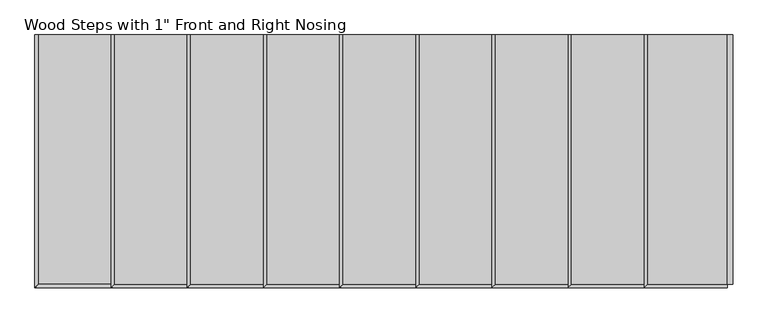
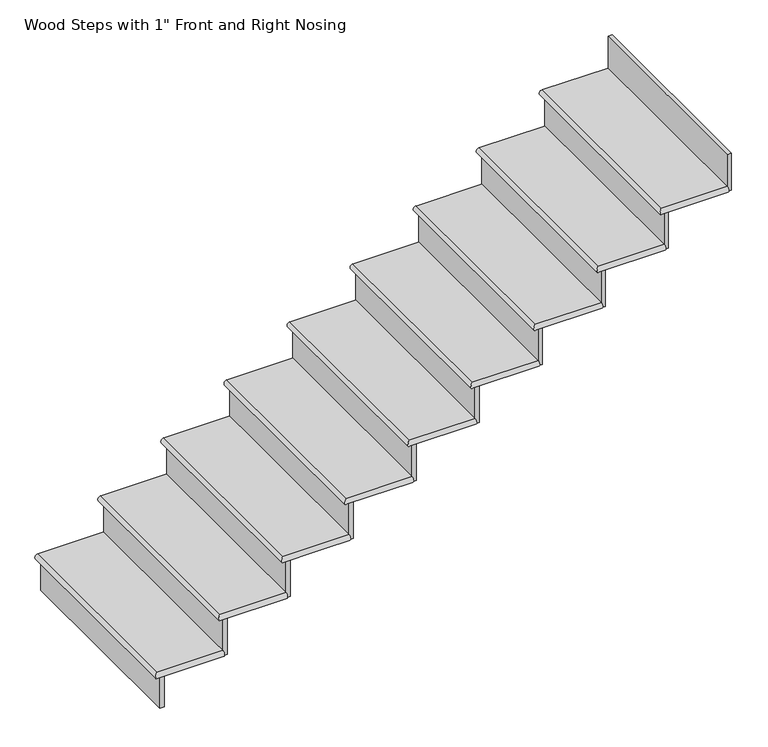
"""IFC4 building model written with IfcOpenShell, lengths in millimetres: stair flight geometry."""

from ifc_helpers import new_model, si_unit, frame, origin, place, context, project, spatial, circle_curve, ellipse_curve, faceted_brep, source, transform, mapped, element, save
from ifc_brep_helpers import plane_surface, cylinder_surface, advanced_brep


def stair_flight_a5641ca7(model_context):
    return source(origin(), model_context, "Body", "SolidModel", [
        advanced_brep(
        [(-8517.4912574, -1022.5702303, 148.7714286), (-8517.4912574, -1022.5702303, 174.1714286), (-8809.5912574, -1022.5702303, 174.1714286), (-8809.5912574, -1022.5702303, 148.7714286), (-8809.5912574, -108.1702303, 174.1714286), (-8809.5912574, -108.1702303, 148.7714286), (-8517.4912574, -108.1702303, 174.1714286), (-8517.4912574, -108.1702303, 148.7714286)],
        [
            (0, 1, circle_curve(frame((-8517.4912574, -1022.5702303, 161.4714286), z_axis=(-1.0, 0.0, 0.0), x_axis=(0.0, 1.0, 0.0)), 12.7)),
            (1, 2),
            (2, 3, ellipse_curve(frame((-8809.5912574, -1022.5702303, 161.4714286), z_axis=(0.707106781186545, -0.7071067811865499, 0.0), x_axis=(0.70710678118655, 0.7071067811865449, 0.0)), 17.9605122, 12.7)),
            (3, 0),
            (2, 4),
            (4, 5, circle_curve(frame((-8809.5912574, -108.1702303, 161.4714286), z_axis=(0.0, -1.0, 0.0), x_axis=(1.0, 0.0, 0.0)), 12.7)),
            (5, 3),
            (6, 4),
            (1, 6),
            (5, 7),
            (7, 0),
            (6, 7),
        ],
        [
            cylinder_surface(frame((-8517.4912574, -1022.5702303, 161.4714286), z_axis=(1.0, 0.0, 0.0), x_axis=(0.0, 1.0, 0.0)), 12.7),
            cylinder_surface(frame((-8809.5912574, -1022.5702303, 161.4714286), z_axis=(0.0, -1.0, 0.0), x_axis=(1.0, 0.0, 0.0)), 12.7),
            plane_surface(frame((-8822.2912574, -108.1702303, 174.1714286), z_axis=(0.0, 0.0, 1.0), x_axis=(-1.0, 0.0, 0.0))),
            plane_surface(frame((-8822.2912574, -108.1702303, 148.7714286), z_axis=(0.0, 0.0, -1.0), x_axis=(1.0, 0.0, 0.0))),
            plane_surface(frame((-8517.4912574, -108.1702303, 174.1714286), z_axis=(0.0, 1.0, 0.0), x_axis=(0.0, 0.0, -1.0))),
            plane_surface(frame((-8517.4912574, -1022.5702303, 174.1714286), z_axis=(1.0, 0.0, 0.0), x_axis=(0.0, 0.0, -1.0))),
        ],
        [
            (0, [[1, 2, 3, 4]]),
            (1, [[-3, 5, 6, 7]]),
            (2, [[8, -5, -2, 9]]),
            (3, [[10, 11, -4, -7]]),
            (4, [[-8, 12, -10, -6]]),
            (5, [[-9, -1, -11, -12]]),
        ],
    ),
        faceted_brep([(-8796.8912574, -1022.5702303, 148.7714286), (-8796.8912574, -1022.5702303, 0.0), (-8777.8412574, -1022.5702303, 0.0), (-8777.8412574, -1022.5702303, 148.7714286), (-8796.8912574, -108.1702303, 148.7714286), (-8777.8412574, -108.1702303, 148.7714286), (-8777.8412574, -108.1702303, 0.0), (-8796.8912574, -108.1702303, 0.0)], [[[0, 1, 2, 3]], [[4, 5, 6, 7]], [[1, 0, 4, 7]], [[2, 1, 7, 6]], [[3, 2, 6, 5]], [[0, 3, 5, 4]]]),
        faceted_brep([(-8517.4912574, -1022.5702303, 322.9428571), (-8517.4912574, -1022.5702303, 148.7714286), (-8498.4412574, -1022.5702303, 148.7714286), (-8498.4412574, -1022.5702303, 322.9428571), (-8517.4912574, -108.1702303, 322.9428571), (-8498.4412574, -108.1702303, 322.9428571), (-8498.4412574, -108.1702303, 148.7714286), (-8517.4912574, -108.1702303, 148.7714286)], [[[0, 1, 2, 3]], [[4, 5, 6, 7]], [[1, 0, 4, 7]], [[2, 1, 7, 6]], [[3, 2, 6, 5]], [[0, 3, 5, 4]]]),
        advanced_brep(
        [(-8238.0912574, -108.1702303, 348.3428571), (-8530.1912574, -108.1702303, 348.3428571), (-8530.1912574, -1022.5702303, 348.3428571), (-8238.0912574, -1022.5702303, 348.3428571), (-8530.1912574, -108.1702303, 322.9428571), (-8238.0912574, -108.1702303, 322.9428571), (-8238.0912574, -1022.5702303, 322.9428571), (-8530.1912574, -1022.5702303, 322.9428571)],
        [
            (0, 1),
            (1, 2),
            (2, 3),
            (3, 0),
            (4, 5),
            (5, 6),
            (6, 7),
            (7, 4),
            (0, 5),
            (4, 1, circle_curve(frame((-8530.1912574, -108.1702303, 335.6428571), z_axis=(0.0, 1.0, 0.0), x_axis=(1.0, 0.0, 0.0)), 12.7)),
            (3, 6, circle_curve(frame((-8238.0912574, -1022.5702303, 335.6428571), z_axis=(1.0, 0.0, 0.0), x_axis=(0.0, 1.0, 0.0)), 12.7)),
            (2, 7, ellipse_curve(frame((-8530.1912574, -1022.5702303, 335.6428571), z_axis=(0.7071067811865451, -0.7071067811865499, 0.0), x_axis=(0.7071067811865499, 0.707106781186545, 0.0)), 17.9605122, 12.7)),
        ],
        [
            plane_surface(frame((-8822.2912574, -108.1702303, 348.3428571), z_axis=(0.0, 0.0, 1.0), x_axis=(-1.0, 0.0, 0.0))),
            plane_surface(frame((-8822.2912574, -108.1702303, 322.9428571), z_axis=(0.0, 0.0, -1.0), x_axis=(1.0, 0.0, 0.0))),
            plane_surface(frame((-8238.0912574, -108.1702303, 348.3428571), z_axis=(0.0, 1.0, 0.0), x_axis=(0.0, 0.0, -1.0))),
            plane_surface(frame((-8238.0912574, -1022.5702303, 348.3428571), z_axis=(1.0, 0.0, 0.0), x_axis=(0.0, 0.0, -1.0))),
            cylinder_surface(frame((-8238.0912574, -1022.5702303, 335.6428571), z_axis=(1.0, 0.0, 0.0), x_axis=(0.0, 1.0, 0.0)), 12.7),
            cylinder_surface(frame((-8530.1912574, -1022.5702303, 335.6428571), z_axis=(0.0, -1.0, 0.0), x_axis=(1.0, 0.0, 0.0)), 12.7),
        ],
        [
            (0, [[1, 2, 3, 4]]),
            (1, [[5, 6, 7, 8]]),
            (2, [[-1, 9, -5, 10]]),
            (3, [[-4, 11, -6, -9]]),
            (4, [[-11, -3, 12, -7]]),
            (5, [[-12, -2, -10, -8]]),
        ],
    ),
        faceted_brep([(-8238.0912574, -1022.5702303, 497.1142857), (-8238.0912574, -1022.5702303, 322.9428571), (-8219.0412574, -1022.5702303, 322.9428571), (-8219.0412574, -1022.5702303, 497.1142857), (-8238.0912574, -108.1702303, 497.1142857), (-8219.0412574, -108.1702303, 497.1142857), (-8219.0412574, -108.1702303, 322.9428571), (-8238.0912574, -108.1702303, 322.9428571)], [[[0, 1, 2, 3]], [[4, 5, 6, 7]], [[1, 0, 4, 7]], [[2, 1, 7, 6]], [[3, 2, 6, 5]], [[0, 3, 5, 4]]]),
        advanced_brep(
        [(-7958.6912574, -108.1702303, 522.5142857), (-8250.7912574, -108.1702303, 522.5142857), (-8250.7912574, -1022.5702303, 522.5142857), (-7958.6912574, -1022.5702303, 522.5142857), (-8250.7912574, -108.1702303, 497.1142857), (-7958.6912574, -108.1702303, 497.1142857), (-7958.6912574, -1022.5702303, 497.1142857), (-8250.7912574, -1022.5702303, 497.1142857)],
        [
            (0, 1),
            (1, 2),
            (2, 3),
            (3, 0),
            (4, 5),
            (5, 6),
            (6, 7),
            (7, 4),
            (0, 5),
            (4, 1, circle_curve(frame((-8250.7912574, -108.1702303, 509.8142857), z_axis=(0.0, 1.0, 0.0), x_axis=(1.0, 0.0, 0.0)), 12.7)),
            (3, 6, circle_curve(frame((-7958.6912574, -1022.5702303, 509.8142857), z_axis=(1.0, 0.0, 0.0), x_axis=(0.0, 1.0, 0.0)), 12.7)),
            (2, 7, ellipse_curve(frame((-8250.7912574, -1022.5702303, 509.8142857), z_axis=(0.7071067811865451, -0.7071067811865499, 0.0), x_axis=(0.7071067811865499, 0.707106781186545, 0.0)), 17.9605122, 12.7)),
        ],
        [
            plane_surface(frame((-8542.8912574, -108.1702303, 522.5142857), z_axis=(0.0, 0.0, 1.0), x_axis=(-1.0, 0.0, 0.0))),
            plane_surface(frame((-8542.8912574, -108.1702303, 497.1142857), z_axis=(0.0, 0.0, -1.0), x_axis=(1.0, 0.0, 0.0))),
            plane_surface(frame((-7958.6912574, -108.1702303, 522.5142857), z_axis=(0.0, 1.0, 0.0), x_axis=(0.0, 0.0, -1.0))),
            plane_surface(frame((-7958.6912574, -1022.5702303, 522.5142857), z_axis=(1.0, 0.0, 0.0), x_axis=(0.0, 0.0, -1.0))),
            cylinder_surface(frame((-7958.6912574, -1022.5702303, 509.8142857), z_axis=(1.0, 0.0, 0.0), x_axis=(0.0, 1.0, 0.0)), 12.7),
            cylinder_surface(frame((-8250.7912574, -1022.5702303, 509.8142857), z_axis=(0.0, -1.0, 0.0), x_axis=(1.0, 0.0, 0.0)), 12.7),
        ],
        [
            (0, [[1, 2, 3, 4]]),
            (1, [[5, 6, 7, 8]]),
            (2, [[-1, 9, -5, 10]]),
            (3, [[-4, 11, -6, -9]]),
            (4, [[-11, -3, 12, -7]]),
            (5, [[-12, -2, -10, -8]]),
        ],
    ),
        faceted_brep([(-7958.6912574, -1022.5702303, 671.2857143), (-7958.6912574, -1022.5702303, 497.1142857), (-7939.6412574, -1022.5702303, 497.1142857), (-7939.6412574, -1022.5702303, 671.2857143), (-7958.6912574, -108.1702303, 671.2857143), (-7939.6412574, -108.1702303, 671.2857143), (-7939.6412574, -108.1702303, 497.1142857), (-7958.6912574, -108.1702303, 497.1142857)], [[[0, 1, 2, 3]], [[4, 5, 6, 7]], [[1, 0, 4, 7]], [[2, 1, 7, 6]], [[3, 2, 6, 5]], [[0, 3, 5, 4]]]),
        advanced_brep(
        [(-7679.2912574, -108.1702303, 696.6857143), (-7971.3912574, -108.1702303, 696.6857143), (-7971.3912574, -1022.5702303, 696.6857143), (-7679.2912574, -1022.5702303, 696.6857143), (-7971.3912574, -108.1702303, 671.2857143), (-7679.2912574, -108.1702303, 671.2857143), (-7679.2912574, -1022.5702303, 671.2857143), (-7971.3912574, -1022.5702303, 671.2857143)],
        [
            (0, 1),
            (1, 2),
            (2, 3),
            (3, 0),
            (4, 5),
            (5, 6),
            (6, 7),
            (7, 4),
            (0, 5),
            (4, 1, circle_curve(frame((-7971.3912574, -108.1702303, 683.9857143), z_axis=(0.0, 1.0, 0.0), x_axis=(1.0, 0.0, 0.0)), 12.7)),
            (3, 6, circle_curve(frame((-7679.2912574, -1022.5702303, 683.9857143), z_axis=(1.0, 0.0, 0.0), x_axis=(0.0, 1.0, 0.0)), 12.7)),
            (2, 7, ellipse_curve(frame((-7971.3912574, -1022.5702303, 683.9857143), z_axis=(0.7071067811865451, -0.7071067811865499, 0.0), x_axis=(0.7071067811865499, 0.707106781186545, 0.0)), 17.9605122, 12.7)),
        ],
        [
            plane_surface(frame((-8263.4912574, -108.1702303, 696.6857143), z_axis=(0.0, 0.0, 1.0), x_axis=(-1.0, 0.0, 0.0))),
            plane_surface(frame((-8263.4912574, -108.1702303, 671.2857143), z_axis=(0.0, 0.0, -1.0), x_axis=(1.0, 0.0, 0.0))),
            plane_surface(frame((-7679.2912574, -108.1702303, 696.6857143), z_axis=(0.0, 1.0, 0.0), x_axis=(0.0, 0.0, -1.0))),
            plane_surface(frame((-7679.2912574, -1022.5702303, 696.6857143), z_axis=(1.0, 0.0, 0.0), x_axis=(0.0, 0.0, -1.0))),
            cylinder_surface(frame((-7679.2912574, -1022.5702303, 683.9857143), z_axis=(1.0, 0.0, 0.0), x_axis=(0.0, 1.0, 0.0)), 12.7),
            cylinder_surface(frame((-7971.3912574, -1022.5702303, 683.9857143), z_axis=(0.0, -1.0, 0.0), x_axis=(1.0, 0.0, 0.0)), 12.7),
        ],
        [
            (0, [[1, 2, 3, 4]]),
            (1, [[5, 6, 7, 8]]),
            (2, [[-1, 9, -5, 10]]),
            (3, [[-4, 11, -6, -9]]),
            (4, [[-11, -3, 12, -7]]),
            (5, [[-12, -2, -10, -8]]),
        ],
    ),
        faceted_brep([(-7679.2912574, -1022.5702303, 845.4571429), (-7679.2912574, -1022.5702303, 671.2857143), (-7660.2412574, -1022.5702303, 671.2857143), (-7660.2412574, -1022.5702303, 845.4571429), (-7679.2912574, -108.1702303, 845.4571429), (-7660.2412574, -108.1702303, 845.4571429), (-7660.2412574, -108.1702303, 671.2857143), (-7679.2912574, -108.1702303, 671.2857143)], [[[0, 1, 2, 3]], [[4, 5, 6, 7]], [[1, 0, 4, 7]], [[2, 1, 7, 6]], [[3, 2, 6, 5]], [[0, 3, 5, 4]]]),
        advanced_brep(
        [(-7399.8912574, -108.1702303, 870.8571429), (-7691.9912574, -108.1702303, 870.8571429), (-7691.9912574, -1022.5702303, 870.8571429), (-7399.8912574, -1022.5702303, 870.8571429), (-7691.9912574, -108.1702303, 845.4571429), (-7399.8912574, -108.1702303, 845.4571429), (-7399.8912574, -1022.5702303, 845.4571429), (-7691.9912574, -1022.5702303, 845.4571429)],
        [
            (0, 1),
            (1, 2),
            (2, 3),
            (3, 0),
            (4, 5),
            (5, 6),
            (6, 7),
            (7, 4),
            (0, 5),
            (4, 1, circle_curve(frame((-7691.9912574, -108.1702303, 858.1571429), z_axis=(0.0, 1.0, 0.0), x_axis=(1.0, 0.0, 0.0)), 12.7)),
            (3, 6, circle_curve(frame((-7399.8912574, -1022.5702303, 858.1571429), z_axis=(1.0, 0.0, 0.0), x_axis=(0.0, 1.0, 0.0)), 12.7)),
            (2, 7, ellipse_curve(frame((-7691.9912574, -1022.5702303, 858.1571429), z_axis=(0.7071067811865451, -0.7071067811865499, 0.0), x_axis=(0.7071067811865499, 0.707106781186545, 0.0)), 17.9605122, 12.7)),
        ],
        [
            plane_surface(frame((-7984.0912574, -108.1702303, 870.8571429), z_axis=(0.0, 0.0, 1.0), x_axis=(-1.0, 0.0, 0.0))),
            plane_surface(frame((-7984.0912574, -108.1702303, 845.4571429), z_axis=(0.0, 0.0, -1.0), x_axis=(1.0, 0.0, 0.0))),
            plane_surface(frame((-7399.8912574, -108.1702303, 870.8571429), z_axis=(0.0, 1.0, 0.0), x_axis=(0.0, 0.0, -1.0))),
            plane_surface(frame((-7399.8912574, -1022.5702303, 870.8571429), z_axis=(1.0, 0.0, 0.0), x_axis=(0.0, 0.0, -1.0))),
            cylinder_surface(frame((-7399.8912574, -1022.5702303, 858.1571429), z_axis=(1.0, 0.0, 0.0), x_axis=(0.0, 1.0, 0.0)), 12.7),
            cylinder_surface(frame((-7691.9912574, -1022.5702303, 858.1571429), z_axis=(0.0, -1.0, 0.0), x_axis=(1.0, 0.0, 0.0)), 12.7),
        ],
        [
            (0, [[1, 2, 3, 4]]),
            (1, [[5, 6, 7, 8]]),
            (2, [[-1, 9, -5, 10]]),
            (3, [[-4, 11, -6, -9]]),
            (4, [[-11, -3, 12, -7]]),
            (5, [[-12, -2, -10, -8]]),
        ],
    ),
        faceted_brep([(-7399.8912574, -1022.5702303, 1019.6285714), (-7399.8912574, -1022.5702303, 845.4571429), (-7380.8412574, -1022.5702303, 845.4571429), (-7380.8412574, -1022.5702303, 1019.6285714), (-7399.8912574, -108.1702303, 1019.6285714), (-7380.8412574, -108.1702303, 1019.6285714), (-7380.8412574, -108.1702303, 845.4571429), (-7399.8912574, -108.1702303, 845.4571429)], [[[0, 1, 2, 3]], [[4, 5, 6, 7]], [[1, 0, 4, 7]], [[2, 1, 7, 6]], [[3, 2, 6, 5]], [[0, 3, 5, 4]]]),
        advanced_brep(
        [(-7120.4912574, -108.1702303, 1045.0285714), (-7412.5912574, -108.1702303, 1045.0285714), (-7412.5912574, -1022.5702303, 1045.0285714), (-7120.4912574, -1022.5702303, 1045.0285714), (-7412.5912574, -108.1702303, 1019.6285714), (-7120.4912574, -108.1702303, 1019.6285714), (-7120.4912574, -1022.5702303, 1019.6285714), (-7412.5912574, -1022.5702303, 1019.6285714)],
        [
            (0, 1),
            (1, 2),
            (2, 3),
            (3, 0),
            (4, 5),
            (5, 6),
            (6, 7),
            (7, 4),
            (0, 5),
            (4, 1, circle_curve(frame((-7412.5912574, -108.1702303, 1032.3285714), z_axis=(0.0, 1.0, 0.0), x_axis=(1.0, 0.0, 0.0)), 12.7)),
            (3, 6, circle_curve(frame((-7120.4912574, -1022.5702303, 1032.3285714), z_axis=(1.0, 0.0, 0.0), x_axis=(0.0, 1.0, 0.0)), 12.7)),
            (2, 7, ellipse_curve(frame((-7412.5912574, -1022.5702303, 1032.3285714), z_axis=(0.7071067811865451, -0.7071067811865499, 0.0), x_axis=(0.7071067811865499, 0.707106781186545, 0.0)), 17.9605122, 12.7)),
        ],
        [
            plane_surface(frame((-7704.6912574, -108.1702303, 1045.0285714), z_axis=(0.0, 0.0, 1.0), x_axis=(-1.0, 0.0, 0.0))),
            plane_surface(frame((-7704.6912574, -108.1702303, 1019.6285714), z_axis=(0.0, 0.0, -1.0), x_axis=(1.0, 0.0, 0.0))),
            plane_surface(frame((-7120.4912574, -108.1702303, 1045.0285714), z_axis=(0.0, 1.0, 0.0), x_axis=(0.0, 0.0, -1.0))),
            plane_surface(frame((-7120.4912574, -1022.5702303, 1045.0285714), z_axis=(1.0, 0.0, 0.0), x_axis=(0.0, 0.0, -1.0))),
            cylinder_surface(frame((-7120.4912574, -1022.5702303, 1032.3285714), z_axis=(1.0, 0.0, 0.0), x_axis=(0.0, 1.0, 0.0)), 12.7),
            cylinder_surface(frame((-7412.5912574, -1022.5702303, 1032.3285714), z_axis=(0.0, -1.0, 0.0), x_axis=(1.0, 0.0, 0.0)), 12.7),
        ],
        [
            (0, [[1, 2, 3, 4]]),
            (1, [[5, 6, 7, 8]]),
            (2, [[-1, 9, -5, 10]]),
            (3, [[-4, 11, -6, -9]]),
            (4, [[-11, -3, 12, -7]]),
            (5, [[-12, -2, -10, -8]]),
        ],
    ),
        faceted_brep([(-7120.4912574, -1022.5702303, 1193.8), (-7120.4912574, -1022.5702303, 1019.6285714), (-7101.4412574, -1022.5702303, 1019.6285714), (-7101.4412574, -1022.5702303, 1193.8), (-7120.4912574, -108.1702303, 1193.8), (-7101.4412574, -108.1702303, 1193.8), (-7101.4412574, -108.1702303, 1019.6285714), (-7120.4912574, -108.1702303, 1019.6285714)], [[[0, 1, 2, 3]], [[4, 5, 6, 7]], [[1, 0, 4, 7]], [[2, 1, 7, 6]], [[3, 2, 6, 5]], [[0, 3, 5, 4]]]),
        advanced_brep(
        [(-6841.0912574, -108.1702303, 1219.2), (-7133.1912574, -108.1702303, 1219.2), (-7133.1912574, -1022.5702303, 1219.2), (-6841.0912574, -1022.5702303, 1219.2), (-7133.1912574, -108.1702303, 1193.8), (-6841.0912574, -108.1702303, 1193.8), (-6841.0912574, -1022.5702303, 1193.8), (-7133.1912574, -1022.5702303, 1193.8)],
        [
            (0, 1),
            (1, 2),
            (2, 3),
            (3, 0),
            (4, 5),
            (5, 6),
            (6, 7),
            (7, 4),
            (0, 5),
            (4, 1, circle_curve(frame((-7133.1912574, -108.1702303, 1206.5), z_axis=(0.0, 1.0, 0.0), x_axis=(1.0, 0.0, 0.0)), 12.7)),
            (3, 6, circle_curve(frame((-6841.0912574, -1022.5702303, 1206.5), z_axis=(1.0, 0.0, 0.0), x_axis=(0.0, 1.0, 0.0)), 12.7)),
            (2, 7, ellipse_curve(frame((-7133.1912574, -1022.5702303, 1206.5), z_axis=(0.7071067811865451, -0.7071067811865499, 0.0), x_axis=(0.7071067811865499, 0.707106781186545, 0.0)), 17.9605122, 12.7)),
        ],
        [
            plane_surface(frame((-7425.2912574, -108.1702303, 1219.2), z_axis=(0.0, 0.0, 1.0), x_axis=(-1.0, 0.0, 0.0))),
            plane_surface(frame((-7425.2912574, -108.1702303, 1193.8), z_axis=(0.0, 0.0, -1.0), x_axis=(1.0, 0.0, 0.0))),
            plane_surface(frame((-6841.0912574, -108.1702303, 1219.2), z_axis=(0.0, 1.0, 0.0), x_axis=(0.0, 0.0, -1.0))),
            plane_surface(frame((-6841.0912574, -1022.5702303, 1219.2), z_axis=(1.0, 0.0, 0.0), x_axis=(0.0, 0.0, -1.0))),
            cylinder_surface(frame((-6841.0912574, -1022.5702303, 1206.5), z_axis=(1.0, 0.0, 0.0), x_axis=(0.0, 1.0, 0.0)), 12.7),
            cylinder_surface(frame((-7133.1912574, -1022.5702303, 1206.5), z_axis=(0.0, -1.0, 0.0), x_axis=(1.0, 0.0, 0.0)), 12.7),
        ],
        [
            (0, [[1, 2, 3, 4]]),
            (1, [[5, 6, 7, 8]]),
            (2, [[-1, 9, -5, 10]]),
            (3, [[-4, 11, -6, -9]]),
            (4, [[-11, -3, 12, -7]]),
            (5, [[-12, -2, -10, -8]]),
        ],
    ),
        faceted_brep([(-6841.0912574, -1022.5702303, 1367.9714286), (-6841.0912574, -1022.5702303, 1193.8), (-6822.0412574, -1022.5702303, 1193.8), (-6822.0412574, -1022.5702303, 1367.9714286), (-6841.0912574, -108.1702303, 1367.9714286), (-6822.0412574, -108.1702303, 1367.9714286), (-6822.0412574, -108.1702303, 1193.8), (-6841.0912574, -108.1702303, 1193.8)], [[[0, 1, 2, 3]], [[4, 5, 6, 7]], [[1, 0, 4, 7]], [[2, 1, 7, 6]], [[3, 2, 6, 5]], [[0, 3, 5, 4]]]),
        advanced_brep(
        [(-6561.6912574, -108.1702303, 1393.3714286), (-6853.7912574, -108.1702303, 1393.3714286), (-6853.7912574, -1022.5702303, 1393.3714286), (-6561.6912574, -1022.5702303, 1393.3714286), (-6853.7912574, -108.1702303, 1367.9714286), (-6561.6912574, -108.1702303, 1367.9714286), (-6561.6912574, -1022.5702303, 1367.9714286), (-6853.7912574, -1022.5702303, 1367.9714286)],
        [
            (0, 1),
            (1, 2),
            (2, 3),
            (3, 0),
            (4, 5),
            (5, 6),
            (6, 7),
            (7, 4),
            (0, 5),
            (4, 1, circle_curve(frame((-6853.7912574, -108.1702303, 1380.6714286), z_axis=(0.0, 1.0, 0.0), x_axis=(1.0, 0.0, 0.0)), 12.7)),
            (3, 6, circle_curve(frame((-6561.6912574, -1022.5702303, 1380.6714286), z_axis=(1.0, 0.0, 0.0), x_axis=(0.0, 1.0, 0.0)), 12.7)),
            (2, 7, ellipse_curve(frame((-6853.7912574, -1022.5702303, 1380.6714286), z_axis=(0.7071067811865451, -0.7071067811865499, 0.0), x_axis=(0.7071067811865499, 0.707106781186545, 0.0)), 17.9605122, 12.7)),
        ],
        [
            plane_surface(frame((-7145.8912574, -108.1702303, 1393.3714286), z_axis=(0.0, 0.0, 1.0), x_axis=(-1.0, 0.0, 0.0))),
            plane_surface(frame((-7145.8912574, -108.1702303, 1367.9714286), z_axis=(0.0, 0.0, -1.0), x_axis=(1.0, 0.0, 0.0))),
            plane_surface(frame((-6561.6912574, -108.1702303, 1393.3714286), z_axis=(0.0, 1.0, 0.0), x_axis=(0.0, 0.0, -1.0))),
            plane_surface(frame((-6561.6912574, -1022.5702303, 1393.3714286), z_axis=(1.0, 0.0, 0.0), x_axis=(0.0, 0.0, -1.0))),
            cylinder_surface(frame((-6561.6912574, -1022.5702303, 1380.6714286), z_axis=(1.0, 0.0, 0.0), x_axis=(0.0, 1.0, 0.0)), 12.7),
            cylinder_surface(frame((-6853.7912574, -1022.5702303, 1380.6714286), z_axis=(0.0, -1.0, 0.0), x_axis=(1.0, 0.0, 0.0)), 12.7),
        ],
        [
            (0, [[1, 2, 3, 4]]),
            (1, [[5, 6, 7, 8]]),
            (2, [[-1, 9, -5, 10]]),
            (3, [[-4, 11, -6, -9]]),
            (4, [[-11, -3, 12, -7]]),
            (5, [[-12, -2, -10, -8]]),
        ],
    ),
        faceted_brep([(-6561.6912574, -1022.5702303, 1542.1428571), (-6561.6912574, -1022.5702303, 1367.9714286), (-6542.6412574, -1022.5702303, 1367.9714286), (-6542.6412574, -1022.5702303, 1542.1428571), (-6561.6912574, -108.1702303, 1542.1428571), (-6542.6412574, -108.1702303, 1542.1428571), (-6542.6412574, -108.1702303, 1367.9714286), (-6561.6912574, -108.1702303, 1367.9714286)], [[[0, 1, 2, 3]], [[4, 5, 6, 7]], [[1, 0, 4, 7]], [[2, 1, 7, 6]], [[3, 2, 6, 5]], [[0, 3, 5, 4]]]),
        faceted_brep([(-6282.2912574, -1022.5702303, 1716.3142857), (-6282.2912574, -1022.5702303, 1542.1428571), (-6263.2412574, -1022.5702303, 1542.1428571), (-6263.2412574, -1022.5702303, 1716.3142857), (-6282.2912574, -108.1702303, 1716.3142857), (-6263.2412574, -108.1702303, 1716.3142857), (-6263.2412574, -108.1702303, 1542.1428571), (-6282.2912574, -108.1702303, 1542.1428571)], [[[0, 1, 2, 3]], [[4, 5, 6, 7]], [[1, 0, 4, 7]], [[2, 1, 7, 6]], [[3, 2, 6, 5]], [[0, 3, 5, 4]]]),
        advanced_brep(
        [(-6282.2912574, -108.1702303, 1567.5428571), (-6574.3912574, -108.1702303, 1567.5428571), (-6574.3912574, -1022.5702303, 1567.5428571), (-6282.2912574, -1022.5702303, 1567.5428571), (-6574.3912574, -108.1702303, 1542.1428571), (-6282.2912574, -108.1702303, 1542.1428571), (-6282.2912574, -1022.5702303, 1542.1428571), (-6574.3912574, -1022.5702303, 1542.1428571)],
        [
            (0, 1),
            (1, 2),
            (2, 3),
            (3, 0),
            (4, 5),
            (5, 6),
            (6, 7),
            (7, 4),
            (0, 5),
            (4, 1, circle_curve(frame((-6574.3912574, -108.1702303, 1554.8428571), z_axis=(0.0, 1.0, 0.0), x_axis=(1.0, 0.0, 0.0)), 12.7)),
            (3, 6, circle_curve(frame((-6282.2912574, -1022.5702303, 1554.8428571), z_axis=(1.0, 0.0, 0.0), x_axis=(0.0, 1.0, 0.0)), 12.7)),
            (2, 7, ellipse_curve(frame((-6574.3912574, -1022.5702303, 1554.8428571), z_axis=(0.7071067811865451, -0.7071067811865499, 0.0), x_axis=(0.7071067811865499, 0.707106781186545, 0.0)), 17.9605122, 12.7)),
        ],
        [
            plane_surface(frame((-6866.4912574, -108.1702303, 1567.5428571), z_axis=(0.0, 0.0, 1.0), x_axis=(-1.0, 0.0, 0.0))),
            plane_surface(frame((-6866.4912574, -108.1702303, 1542.1428571), z_axis=(0.0, 0.0, -1.0), x_axis=(1.0, 0.0, 0.0))),
            plane_surface(frame((-6282.2912574, -108.1702303, 1567.5428571), z_axis=(0.0, 1.0, 0.0), x_axis=(0.0, 0.0, -1.0))),
            plane_surface(frame((-6282.2912574, -1022.5702303, 1567.5428571), z_axis=(1.0, 0.0, 0.0), x_axis=(0.0, 0.0, -1.0))),
            cylinder_surface(frame((-6282.2912574, -1022.5702303, 1554.8428571), z_axis=(1.0, 0.0, 0.0), x_axis=(0.0, 1.0, 0.0)), 12.7),
            cylinder_surface(frame((-6574.3912574, -1022.5702303, 1554.8428571), z_axis=(0.0, -1.0, 0.0), x_axis=(1.0, 0.0, 0.0)), 12.7),
        ],
        [
            (0, [[1, 2, 3, 4]]),
            (1, [[5, 6, 7, 8]]),
            (2, [[-1, 9, -5, 10]]),
            (3, [[-4, 11, -6, -9]]),
            (4, [[-11, -3, 12, -7]]),
            (5, [[-12, -2, -10, -8]]),
        ],
    ),
    ])


if __name__ == "__main__":
    model = new_model("IFC4")
    model_context = context("Model", 3, world=origin())
    ifc_project = project(units=[si_unit("LENGTHUNIT", "METRE", prefix="MILLI")], contexts=[model_context])
    site = spatial("IfcSite", under=ifc_project)
    building = spatial("IfcBuilding", under=site)
    placement = place(None, origin())
    stair_flight_shape = stair_flight_a5641ca7(model_context)
    element("IfcStairFlight", 1, ObjectType="Wood Steps with 1\" Front and Right Nosing", at=placement, inside=building, context=model_context, shape_type="MappedRepresentation", body=[
        mapped(stair_flight_shape, transform((0.0, 0.0, 0.0), x_axis=(1.0, 0.0, 0.0), y_axis=(0.0, 1.0, 0.0), z_axis=(0.0, 0.0, 1.0))),
    ])
    save(model, "model.ifc")
